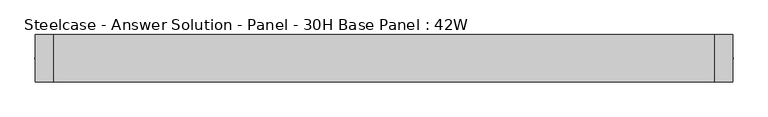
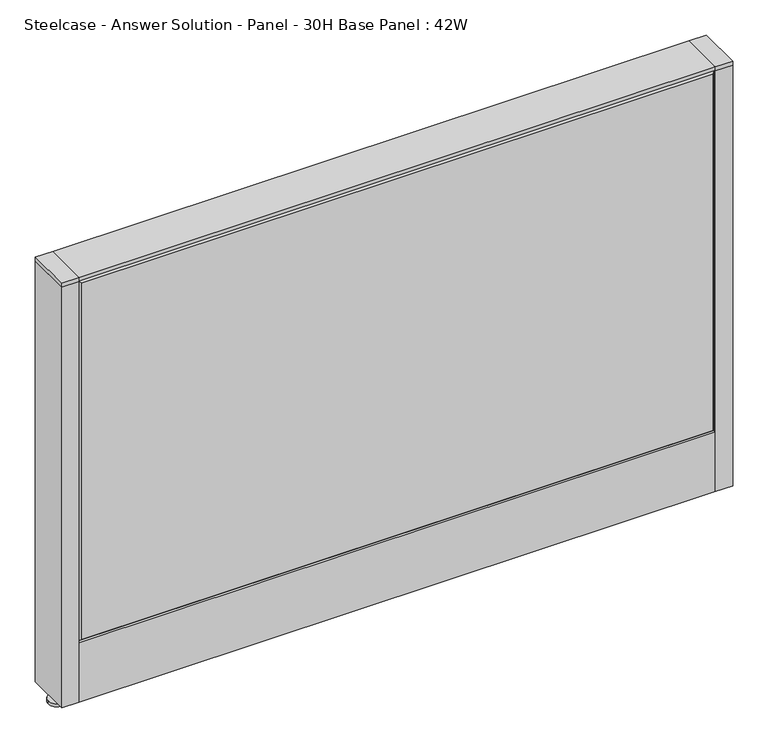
"""IFC4 building model written with IfcOpenShell, lengths in millimetres: furniture geometry, Steelcase - Answer Solution - Panel - 30H Base Panel : 42W."""

from ifc_helpers import new_model, si_unit, point, frame, frame_2d, origin, place, context, project, spatial, polyline, circle_curve, trimmed, segment, composite_curve, outline, extrude, faceted_brep, source, transform, mapped, element, save


def steelcase_answer_solution_panel_30h_base_panel_42w_25f80b15(model_context):
    return source(origin(), model_context, "Body", "SolidModel", [
        extrude(outline(composite_curve([segment(trimmed(circle_curve(frame_2d((547.624, 0.0320214)), 5.08), [point((552.704, 0.0320214))], [point((542.544, 0.0320214))], False, "CARTESIAN"), True, "CONTINUOUS"), segment(trimmed(circle_curve(frame_2d((547.624, 0.0320214)), 5.08), [point((542.544, 0.0320214))], [point((552.704, 0.0320214))], False, "CARTESIAN"), True, "CONTINUOUS")], self_intersect=False)), frame((0.0, 0.0, 5.0799671), z_axis=(0.0, 0.0, 1.0), x_axis=(1.0, 0.0, 0.0)), (0.0, 0.0, 1.0), 10.414),
        extrude(outline(composite_curve([segment(trimmed(circle_curve(frame_2d((547.624, 0.0320214)), 15.24), [point((562.864, 0.0320214))], [point((532.384, 0.0320214))], False, "CARTESIAN"), True, "CONTINUOUS"), segment(trimmed(circle_curve(frame_2d((547.624, 0.0320214)), 15.24), [point((532.384, 0.0320214))], [point((562.864, 0.0320214))], False, "CARTESIAN"), True, "CONTINUOUS")], self_intersect=False)), frame((0.0, 0.0, -3.29e-05), z_axis=(0.0, 0.0, 1.0), x_axis=(1.0, 0.0, 0.0)), (0.0, 0.0, 1.0), 5.08),
        extrude(outline(polyline([(561.975, 38.1320408), (561.975, -38.0679592), (533.4, -38.0679592), (533.4, 38.1320408), (561.975, 38.1320408)])), frame((0.0, 0.0, 761.0348), z_axis=(0.0, 0.0, 1.0), x_axis=(1.0, 0.0, 0.0)), (0.0, 0.0, 1.0), 7.3151671),
        extrude(outline(polyline([(561.975, 38.1320408), (561.975, -38.0679592), (533.4, -38.0679592), (533.4, 38.1320408), (561.975, 38.1320408)])), frame((0.0, 0.0, 15.4939671), z_axis=(0.0, 0.0, 1.0), x_axis=(1.0, 0.0, 0.0)), (0.0, 0.0, 1.0), 745.5408329),
        extrude(outline(composite_curve([segment(trimmed(circle_curve(frame_2d((-547.624, -0.0320214)), 5.08), [point((-552.704, -0.0320214))], [point((-542.544, -0.0320214))], False, "CARTESIAN"), True, "CONTINUOUS"), segment(trimmed(circle_curve(frame_2d((-547.624, -0.0320214)), 5.08), [point((-542.544, -0.0320214))], [point((-552.704, -0.0320214))], False, "CARTESIAN"), True, "CONTINUOUS")], self_intersect=False)), frame((0.0, 0.0, 5.0799671), z_axis=(0.0, 0.0, 1.0), x_axis=(1.0, 0.0, 0.0)), (0.0, 0.0, 1.0), 10.414),
        extrude(outline(composite_curve([segment(trimmed(circle_curve(frame_2d((-547.624, -0.0320214)), 15.24), [point((-562.864, -0.0320214))], [point((-532.384, -0.0320214))], False, "CARTESIAN"), True, "CONTINUOUS"), segment(trimmed(circle_curve(frame_2d((-547.624, -0.0320214)), 15.24), [point((-532.384, -0.0320214))], [point((-562.864, -0.0320214))], False, "CARTESIAN"), True, "CONTINUOUS")], self_intersect=False)), frame((0.0, 0.0, -3.29e-05), z_axis=(0.0, 0.0, 1.0), x_axis=(1.0, 0.0, 0.0)), (0.0, 0.0, 1.0), 5.08),
        extrude(outline(polyline([(-561.975, -38.1320408), (-561.975, 38.0679592), (-533.4, 38.0679592), (-533.4, -38.1320408), (-561.975, -38.1320408)])), frame((0.0, 0.0, 761.0348), z_axis=(0.0, 0.0, 1.0), x_axis=(1.0, 0.0, 0.0)), (0.0, 0.0, 1.0), 7.3151671),
        extrude(outline(polyline([(-561.975, -38.1320408), (-561.975, 38.0679592), (-533.4, 38.0679592), (-533.4, -38.1320408), (-561.975, -38.1320408)])), frame((0.0, 0.0, 15.4939671), z_axis=(0.0, 0.0, 1.0), x_axis=(1.0, 0.0, 0.0)), (0.0, 0.0, 1.0), 745.5408329),
        faceted_brep([(528.574, 38.1635011, 757.174), (528.574, 38.1635011, 125.476), (-528.574, 38.1635011, 125.476), (-528.574, 38.1635011, 757.174), (533.4, 33.3375011, 762.0), (-533.4, 33.3375011, 762.0), (-533.4, 33.3375011, 120.65), (533.4, 33.3375011, 120.65)], [[[0, 1, 2, 3]], [[4, 5, 6, 7]], [[4, 0, 3, 5]], [[5, 3, 2, 6]], [[6, 2, 1, 7]], [[7, 1, 0, 4]]]),
        faceted_brep([(528.574, -38.1635011, 757.174), (-528.574, -38.1635011, 757.174), (-528.574, -38.1635011, 125.476), (528.574, -38.1635011, 125.476), (533.4, -33.3375011, 762.0), (533.4, -33.3375011, 120.65), (-533.4, -33.3375011, 120.65), (-533.4, -33.3375011, 762.0)], [[[0, 1, 2, 3]], [[4, 5, 6, 7]], [[4, 7, 1, 0]], [[7, 6, 2, 1]], [[6, 5, 3, 2]], [[5, 4, 0, 3]]]),
        extrude(outline(polyline([(533.4, 38.1000194), (533.4, -38.1000194), (-533.4, -38.1000194), (-533.4, 38.1000194), (533.4, 38.1000194)])), frame((0.0, 0.0, 762.0), z_axis=(0.0, 0.0, 1.0), x_axis=(1.0, 0.0, 0.0)), (0.0, 0.0, 1.0), 6.35),
        extrude(outline(polyline([(37.3075215, 119.8575157), (25.4000011, 119.8575157), (25.4000011, 120.65), (38.1000194, 120.65), (38.1000194, 15.494), (37.3075215, 15.494), (37.3075215, 119.8575157)])), frame((-533.4, 0.0, 0.0), z_axis=(1.0, 0.0, 0.0), x_axis=(0.0, 1.0, 0.0)), (0.0, 0.0, 1.0), 1066.8),
        extrude(outline(polyline([(-37.3075215, 119.8575157), (-37.3075215, 15.494), (-38.1000194, 15.494), (-38.1000194, 120.65), (-25.4000011, 120.65), (-25.4000011, 119.8575157), (-37.3075215, 119.8575157)])), frame((-533.4, 0.0, 0.0), z_axis=(1.0, 0.0, 0.0), x_axis=(0.0, 1.0, 0.0)), (0.0, 0.0, 1.0), 1066.8),
    ])


if __name__ == "__main__":
    model = new_model("IFC4")
    model_context = context("Model", 3, world=origin())
    ifc_project = project(units=[si_unit("LENGTHUNIT", "METRE", prefix="MILLI")], contexts=[model_context])
    site = spatial("IfcSite", under=ifc_project)
    building = spatial("IfcBuilding", under=site)
    placement = place(None, origin())
    steelcase_answer_solution_panel_30h_base_panel_42w_shape = steelcase_answer_solution_panel_30h_base_panel_42w_25f80b15(model_context)
    element("IfcFurniture", 1, ObjectType="Steelcase - Answer Solution - Panel - 30H Base Panel : 42W", at=placement, inside=building, context=model_context, shape_type="MappedRepresentation", body=[
        mapped(steelcase_answer_solution_panel_30h_base_panel_42w_shape, transform((0.0, 0.0, 0.0), x_axis=(1.0, 0.0, 0.0), y_axis=(0.0, 1.0, 0.0), z_axis=(0.0, 0.0, 1.0))),
    ])
    save(model, "model.ifc")
